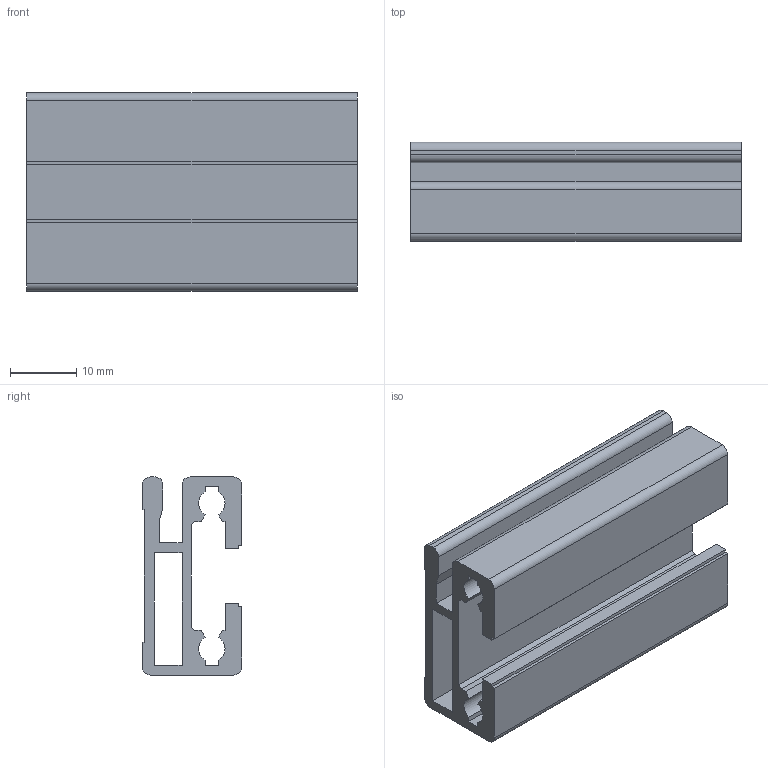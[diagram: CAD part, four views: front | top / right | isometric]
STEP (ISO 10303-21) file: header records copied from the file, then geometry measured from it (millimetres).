
FILE_DESCRIPTION(('no description'),'unknown implementation level');
FILE_NAME('3842993411_142425601.stp',' ',('Bosch Rexroth AG'),('CADClick - KiM GmbH - www.kimweb.de'),'unknown preprocess','ACIS','unknown authorization');
FILE_SCHEMA(('automotive_design'));
Length unit declared in the file: millimetre
Products named in the file (1): 1
Bounding box: 50 x 15 x 30 mm (x, y, z)
Volume: 10130.3 mm3; surface area: 10598.6 mm2
Topology: 1 solids, 1 shells, 56 faces, 162 edges, 108 vertices
Faces by surface type: plane 46, cylinder 10
Entity records: 3652 total; most frequent: STYLED_ITEM 327, PRESENTATION_STYLE_ASSIGNMENT 327, CARTESIAN_POINT 327, COLOUR_RGB 327, ORIENTED_EDGE 324, DIRECTION 296, EDGE_CURVE 162, CURVE_STYLE 162
